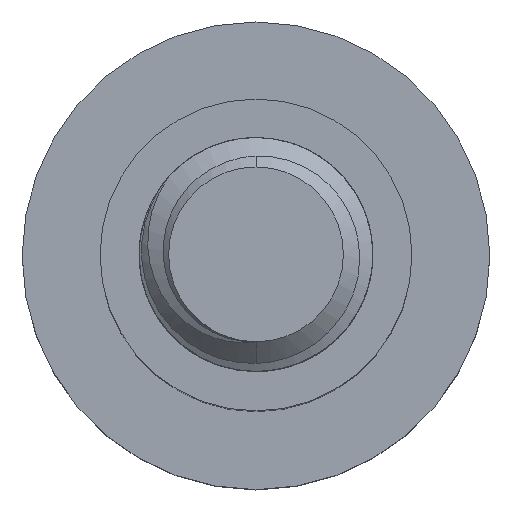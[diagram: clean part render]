
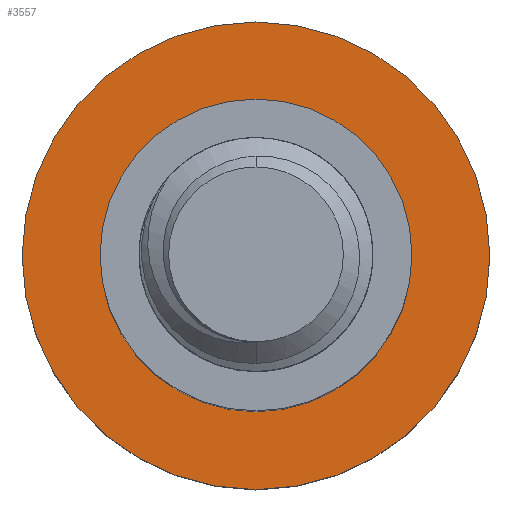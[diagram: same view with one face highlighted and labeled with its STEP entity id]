
A CAD part, top view. The second image highlights one B-rep face of the part: STEP entity #3557.
In plain terms, the highlighted planar face has unit normal (0, 0, 1).
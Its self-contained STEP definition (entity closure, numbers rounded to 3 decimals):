
#50 = ORIENTED_EDGE ( 'NONE', *, *, #1140, .F. ) ;
#142 = DIRECTION ( 'NONE',  ( -1., 0., 0. ) ) ;
#238 = CARTESIAN_POINT ( 'NONE',  ( -8., 0., -25. ) ) ;
#372 = CARTESIAN_POINT ( 'NONE',  ( 12., 0., -25. ) ) ;
#469 = AXIS2_PLACEMENT_3D ( 'NONE', #2630, #4638, #4706 ) ;
#529 = CARTESIAN_POINT ( 'NONE',  ( -12., 0., -25. ) ) ;
#1140 = EDGE_CURVE ( 'NONE', #3030, #3667, #1306, .T. ) ;
#1142 = AXIS2_PLACEMENT_3D ( 'NONE', #2090, #2138, #142 ) ;
#1247 = ORIENTED_EDGE ( 'NONE', *, *, #4011, .T. ) ;
#1306 = CIRCLE ( 'NONE', #3461, 12. ) ;
#1636 = PLANE ( 'NONE',  #2724 ) ;
#1847 = DIRECTION ( 'NONE',  ( -1., 0., 0. ) ) ;
#1861 = ORIENTED_EDGE ( 'NONE', *, *, #5056, .T. ) ;
#2090 = CARTESIAN_POINT ( 'NONE',  ( 0., 0., -25. ) ) ;
#2138 = DIRECTION ( 'NONE',  ( 0., 0., -1. ) ) ;
#2240 = DIRECTION ( 'NONE',  ( -1., 0., 0. ) ) ;
#2262 = DIRECTION ( 'NONE',  ( -1., 0., 0. ) ) ;
#2614 = CARTESIAN_POINT ( 'NONE',  ( 0., 0., -25. ) ) ;
#2630 = CARTESIAN_POINT ( 'NONE',  ( 0., 0., -25. ) ) ;
#2676 = DIRECTION ( 'NONE',  ( 0., 0., -1. ) ) ;
#2706 = DIRECTION ( 'NONE',  ( 0., 0., -1. ) ) ;
#2724 = AXIS2_PLACEMENT_3D ( 'NONE', #4029, #2706, #2262 ) ;
#2899 = AXIS2_PLACEMENT_3D ( 'NONE', #3112, #2676, #1847 ) ;
#2974 = CARTESIAN_POINT ( 'NONE',  ( 8., 0., -25. ) ) ;
#2981 = CIRCLE ( 'NONE', #469, 12. ) ;
#3030 = VERTEX_POINT ( 'NONE', #529 ) ;
#3112 = CARTESIAN_POINT ( 'NONE',  ( 0., 0., -25. ) ) ;
#3279 = EDGE_LOOP ( 'NONE', ( #3772, #50 ) ) ;
#3322 = VERTEX_POINT ( 'NONE', #238 ) ;
#3461 = AXIS2_PLACEMENT_3D ( 'NONE', #2614, #3808, #2240 ) ;
#3468 = CIRCLE ( 'NONE', #1142, 8. ) ;
#3557 = ADVANCED_FACE ( 'NONE', ( #3876, #5053 ), #1636, .F. ) ;
#3667 = VERTEX_POINT ( 'NONE', #372 ) ;
#3772 = ORIENTED_EDGE ( 'NONE', *, *, #5061, .F. ) ;
#3808 = DIRECTION ( 'NONE',  ( 0., 0., -1. ) ) ;
#3876 = FACE_BOUND ( 'NONE', #4456, .T. ) ;
#4007 = VERTEX_POINT ( 'NONE', #2974 ) ;
#4011 = EDGE_CURVE ( 'NONE', #4007, #3322, #3468, .T. ) ;
#4029 = CARTESIAN_POINT ( 'NONE',  ( 0., 0., -25. ) ) ;
#4399 = CIRCLE ( 'NONE', #2899, 8. ) ;
#4456 = EDGE_LOOP ( 'NONE', ( #1861, #1247 ) ) ;
#4638 = DIRECTION ( 'NONE',  ( 0., 0., -1. ) ) ;
#4706 = DIRECTION ( 'NONE',  ( -1., 0., 0. ) ) ;
#5053 = FACE_OUTER_BOUND ( 'NONE', #3279, .T. ) ;
#5056 = EDGE_CURVE ( 'NONE', #3322, #4007, #4399, .T. ) ;
#5061 = EDGE_CURVE ( 'NONE', #3667, #3030, #2981, .T. ) ;
